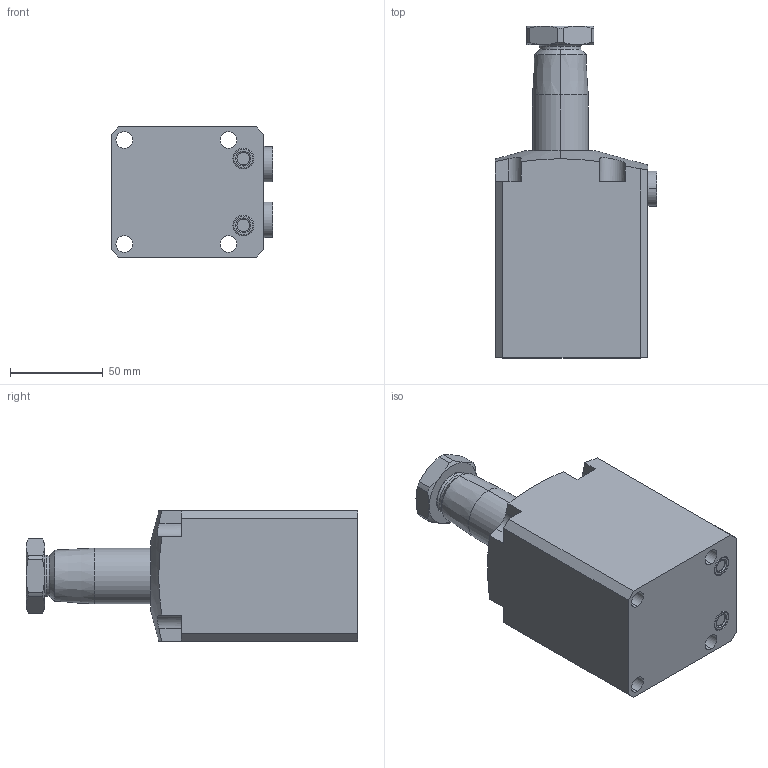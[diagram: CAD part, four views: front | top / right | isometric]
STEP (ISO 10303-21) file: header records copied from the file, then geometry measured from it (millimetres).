
FILE_DESCRIPTION(/* description */ (''),/* implementation_level */ '2;1');
FILE_NAME(/* name */ 'BRC10-R.stp',/* time_stamp */ '2025-01-05T09:26:09+08:00',/* author */ (''),/* organization */ (''),/* preprocessor_version */ 'ST-DEVELOPER v16.7',/* originating_system */ 'SIEMENS PLM Software NX 12.0',/* authorisation */ '');
FILE_SCHEMA (('AUTOMOTIVE_DESIGN { 1 0 10303 214 3 1 1 1 }'));
Length unit declared in the file: millimetre
Products named in the file (5): BRC10-R-04; BRC10-R-03; BRC10-R-02; BRC10-R-01; BRC10-R_stp
Assembly tree (5 placements, depth 2):
  BRC10-R_stp
    BRC10-R-01
    BRC10-R-02
    BRC10-R-03  x2
    BRC10-R-04
Bounding box: 86.8 x 178.5 x 70 mm (x, y, z)
Volume: 617062 mm3; surface area: 71103.9 mm2
Topology: 7 solids, 7 shells, 176 faces, 401 edges, 248 vertices
Faces by surface type: plane 68, cylinder 57, cone 34, torus 16, sphere 1
Full cylindrical faces by diameter (mm): 13.15 x2
Entity records: 4660 total; most frequent: CARTESIAN_POINT 957, DIRECTION 778, ORIENTED_EDGE 712, EDGE_CURVE 356, AXIS2_PLACEMENT_3D 313, VERTEX_POINT 222, EDGE_LOOP 180, ADVANCED_FACE 156
